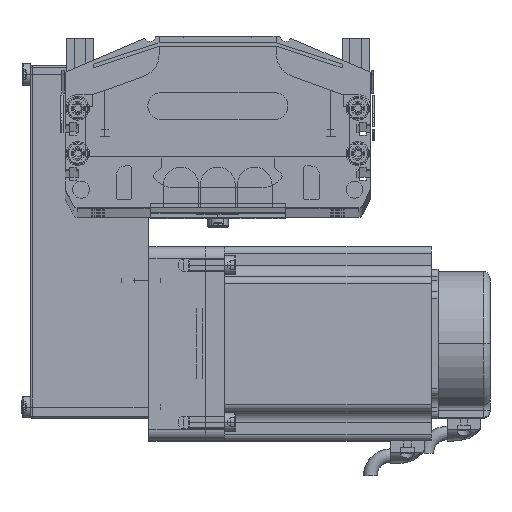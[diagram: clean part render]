
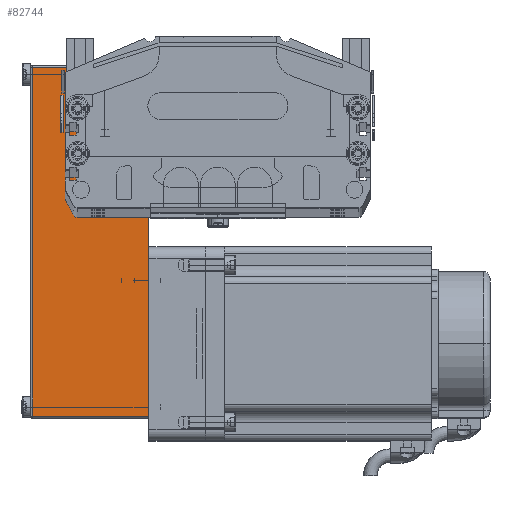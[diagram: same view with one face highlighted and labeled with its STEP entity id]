
A CAD part, top view. The second image highlights one B-rep face of the part: STEP entity #82744.
In plain terms, the highlighted planar face has unit normal (0, 0, 1) as drawn and (0, -1, 0) by its records, which use the part's own axes.
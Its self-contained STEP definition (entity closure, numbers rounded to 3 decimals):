
#39466 = CARTESIAN_POINT ( 'NONE',  ( -123.2, -40., 0. ) ) ;
#39573 = VECTOR ( 'NONE', #39714, 1000. ) ;
#39714 = DIRECTION ( 'NONE',  ( 1., 0., 0. ) ) ;
#39718 = CARTESIAN_POINT ( 'NONE',  ( 32., -40., 0. ) ) ;
#39719 = LINE ( 'NONE', #39718, #39573 ) ;
#52032 = DIRECTION ( 'NONE',  ( -1., 0., 0. ) ) ;
#52034 = DIRECTION ( 'NONE',  ( 0., 1., 0. ) ) ;
#52036 = CARTESIAN_POINT ( 'NONE',  ( 32., -40., 52.5 ) ) ;
#52037 = AXIS2_PLACEMENT_3D ( 'NONE', #52036, #52034, #52032 ) ;
#52039 = PLANE ( 'NONE',  #52037 ) ;
#52053 = FACE_OUTER_BOUND ( 'NONE', #82779, .T. ) ;
#52283 = CARTESIAN_POINT ( 'NONE',  ( -123.2, -40., 51.5 ) ) ;
#52510 = DIRECTION ( 'NONE',  ( -1., 0., 0. ) ) ;
#52526 = LINE ( 'NONE', #52533, #52531 ) ;
#52531 = VECTOR ( 'NONE', #52510, 1000. ) ;
#52533 = CARTESIAN_POINT ( 'NONE',  ( 32., -40., 51.5 ) ) ;
#52894 = DIRECTION ( 'NONE',  ( 0., 0., 1. ) ) ;
#52895 = VECTOR ( 'NONE', #52894, 1000. ) ;
#52900 = CARTESIAN_POINT ( 'NONE',  ( 31., -40., 51.5 ) ) ;
#52904 = CARTESIAN_POINT ( 'NONE',  ( 31., -40., 52.5 ) ) ;
#52905 = LINE ( 'NONE', #52904, #52895 ) ;
#52906 = DIRECTION ( 'NONE',  ( 0., 0., -1. ) ) ;
#52908 = VECTOR ( 'NONE', #52906, 1000. ) ;
#52909 = CARTESIAN_POINT ( 'NONE',  ( -123.2, -40., 52.5 ) ) ;
#52910 = LINE ( 'NONE', #52909, #52908 ) ;
#76981 = CARTESIAN_POINT ( 'NONE',  ( 31., -40., 0. ) ) ;
#82511 = ORIENTED_EDGE ( 'NONE', *, *, #82887, .T. ) ;
#82527 = VERTEX_POINT ( 'NONE', #39466 ) ;
#82560 = EDGE_CURVE ( 'NONE', #82527, #82649, #39719, .T. ) ;
#82649 = VERTEX_POINT ( 'NONE', #76981 ) ;
#82744 = ADVANCED_FACE ( 'NONE', ( #52053 ), #52039, .F. ) ;
#82778 = ORIENTED_EDGE ( 'NONE', *, *, #82890, .T. ) ;
#82779 = EDGE_LOOP ( 'NONE', ( #82897, #82778, #82511, #82906 ) ) ;
#82815 = VERTEX_POINT ( 'NONE', #52283 ) ;
#82887 = EDGE_CURVE ( 'NONE', #82891, #82815, #52526, .T. ) ;
#82888 = EDGE_CURVE ( 'NONE', #82815, #82527, #52910, .T. ) ;
#82890 = EDGE_CURVE ( 'NONE', #82649, #82891, #52905, .T. ) ;
#82891 = VERTEX_POINT ( 'NONE', #52900 ) ;
#82897 = ORIENTED_EDGE ( 'NONE', *, *, #82560, .T. ) ;
#82906 = ORIENTED_EDGE ( 'NONE', *, *, #82888, .T. ) ;
